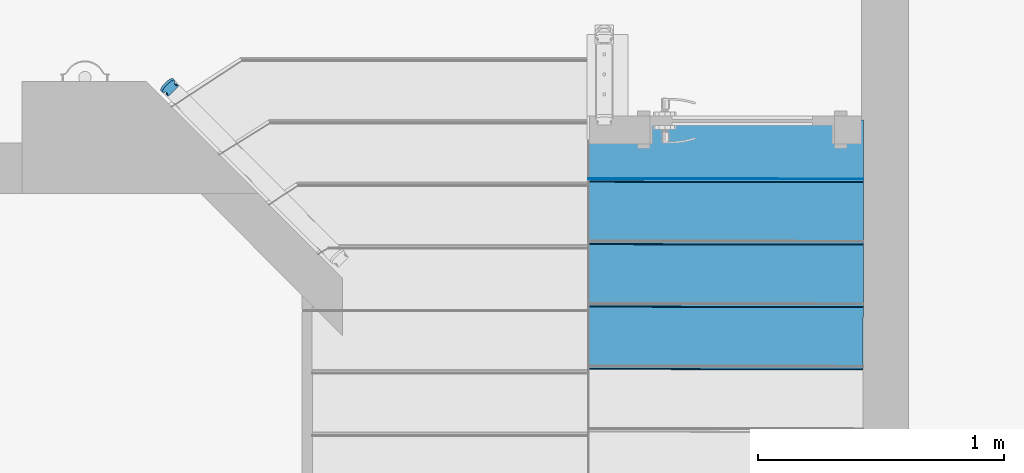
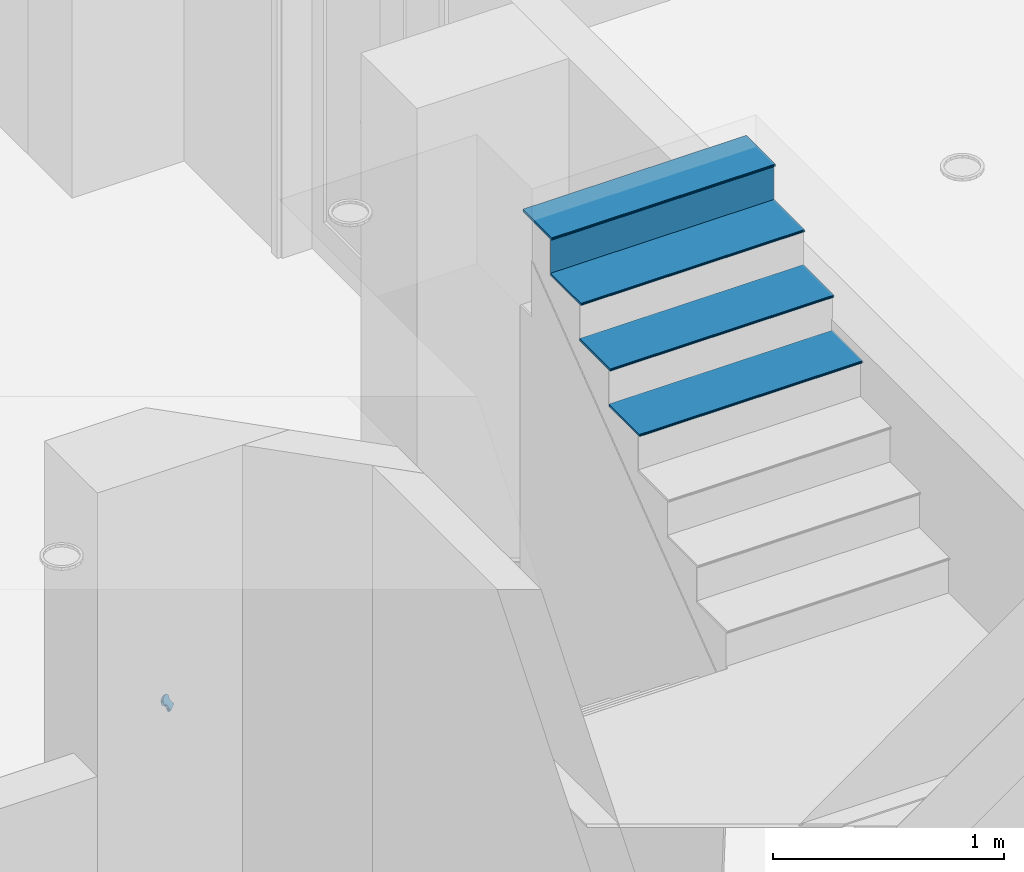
# One storey, part 6 of 24: 6 building element parts, 2 elements without a shape of their own.
"""IFC2X3 building model written with IfcOpenShell, lengths in inches."""

from ifc_helpers import new_model, entity, si_unit, converted_unit, derived_unit, money_unit, direction, frame, origin_with_axes, place, context, subcontext, project, spatial, faceted_brep, material, type_object, element, aggregate, save


model = new_model("IFC2X3")

# Units and contexts
model_context = context("Model", 3, precision=0.000393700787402, world=origin_with_axes(), true_north=direction((0.0, 1.0)))
body_context = subcontext(model_context, "Body", "Model", "MODEL_VIEW")
ifc_project = project(units=[converted_unit("LENGTHUNIT", "INCH", entity("IfcPositiveLengthMeasure", 0.0254), si_unit("LENGTHUNIT", "METRE"), dimensions=[1, 0, 0, 0, 0, 0, 0]), converted_unit("AREAUNIT", "SQUARE_FOOT", entity("IfcPositiveLengthMeasure", 0.09290304), si_unit("AREAUNIT", "SQUARE_METRE"), dimensions=[2, 0, 0, 0, 0, 0, 0]), si_unit("PLANEANGLEUNIT", "RADIAN"), si_unit("SOLIDANGLEUNIT", "STERADIAN"), money_unit("USD"), converted_unit("TIMEUNIT", "Year", entity("IfcTimeMeasure", 31556926.0), si_unit("TIMEUNIT", "SECOND"), dimensions=[0, 0, 1, 0, 0, 0, 0]), si_unit("MASSUNIT", "GRAM", prefix="KILO"), si_unit("THERMODYNAMICTEMPERATUREUNIT", "DEGREE_CELSIUS"), si_unit("LUMINOUSINTENSITYUNIT", "LUMEN"), si_unit("ENERGYUNIT", "JOULE", prefix="MEGA"), derived_unit("THERMALCONDUCTANCEUNIT", [(si_unit("POWERUNIT", "WATT"), 1), (si_unit("LENGTHUNIT", "METRE"), -1), (si_unit("THERMODYNAMICTEMPERATUREUNIT", "KELVIN"), -1)]), derived_unit("SPECIFICHEATCAPACITYUNIT", [(si_unit("ENERGYUNIT", "JOULE"), 1), (si_unit("MASSUNIT", "GRAM", prefix="KILO"), -1), (si_unit("THERMODYNAMICTEMPERATUREUNIT", "KELVIN"), -1)]), derived_unit("MASSDENSITYUNIT", [(si_unit("MASSUNIT", "GRAM", prefix="KILO"), 1), (si_unit("VOLUMEUNIT", "CUBIC_METRE"), -1)])], contexts=[model_context])

# Site, building, storey
site_placement = place(None, origin_with_axes())
site = spatial("IfcSite", under=ifc_project, at=site_placement, Name="Site", CompositionType="ELEMENT")
building_placement = place(site_placement, origin_with_axes())
building = spatial("IfcBuilding", under=site, at=building_placement, Name="Building", CompositionType="ELEMENT")
storey_placement = place(building_placement, origin_with_axes())
storey = spatial("IfcBuildingStorey", under=building, at=storey_placement, Name="First Floor", CompositionType="ELEMENT", Elevation=0.0)

# Railing, building element part
railing_type = type_object("IfcRailingType", Name="Railing Type", PredefinedType="NOTDEFINED")
railing_placement = place(storey_placement, frame((643.989643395, 118.830878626, 0.0), z_axis=(0.0, 0.0, 1.0), x_axis=(-1.0, 0.0, 0.0)))
railing = element("IfcRailing", 1, at=railing_placement, inside=storey, type_object=railing_type, Name="RAILING - 001", PredefinedType="NOTDEFINED")
ifc_material_1 = material(Name="Wood - Structural")
building_element_part_1_placement = place(railing_placement, origin_with_axes())
building_element_part_1 = element("IfcBuildingElementPart", 2, at=building_element_part_1_placement, material=ifc_material_1, Name="Wood - Structural", context=body_context, shape_type="Brep", body=[
    faceted_brep([(27.3349905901, -31.706144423, 39.9014723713), (27.2835203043, -31.6543157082, 39.8029447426), (27.5665501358, -31.939316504, 39.5051719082), (27.6180204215, -31.9911452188, 39.6036995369), (27.3825123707, -31.6709086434, 39.9129168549), (27.6739848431, -31.4395994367, 39.9685703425), (27.9540103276, -31.190695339, 39.9965033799), (28.220457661, -30.9260906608, 39.9965033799), (28.4712990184, -30.6477992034, 39.9685703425), (28.7046253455, -30.357938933, 39.9129168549), (28.7401900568, -30.3106628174, 39.9014723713), (28.688719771, -30.2588341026, 39.8029447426), (28.7118638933, -30.2345442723, 39.8016949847), (28.7535416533, -30.1827681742, 39.7917539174), (28.788036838, -30.1280540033, 39.7721738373), (28.8143013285, -30.072064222, 39.7435496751), (28.8315370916, -30.0165000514, 39.7067511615), (28.8392204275, -29.9630497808, 39.6628964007), (28.8371178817, -29.9133374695, 39.6133178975), (28.8252933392, -29.868873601, 39.5595220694), (28.8041060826, -29.8310091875, 39.5031434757), (28.774199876, -29.80089472, 39.4458951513), (28.7364834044, -29.7794452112, 39.3895165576), (28.6921026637, -29.7673123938, 39.3357207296), (28.6424061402, -29.7648649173, 39.2861422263), (28.5889038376, -29.7721771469, 39.2422874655), (28.5332213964, -29.7890269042, 39.2054889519), (28.4770506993, -29.814902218, 39.1768647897), (28.4220984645, -29.8490168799, 39.1572847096), (28.370034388, -29.8903343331, 39.1473436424), (28.3455845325, -29.9133093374, 39.1460938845), (28.2598007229, -29.8269281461, 38.9818811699), (28.2305849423, -29.8295487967, 38.9566201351), (28.1716192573, -29.8266448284, 38.8977944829), (28.1189608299, -29.812249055, 38.8339649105), (28.0742096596, -29.7867988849, 38.767070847), (28.0387254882, -29.7510676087, 38.6991448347), (28.0135864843, -29.7061409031, 38.6322507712), (27.9995564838, -29.6533838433, 38.5684211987), (27.9970617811, -29.5943994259, 38.5095955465), (27.9998851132, -29.565202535, 38.4843345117), (27.9141013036, -29.4788213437, 38.3201217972), (27.9256733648, -29.4666764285, 38.3194969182), (27.9465122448, -29.4407883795, 38.3145263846), (27.9637598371, -29.413431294, 38.3047363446), (27.9768920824, -29.3854364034, 38.2904242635), (27.9855099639, -29.3576543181, 38.2720250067), (27.9893516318, -29.3309291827, 38.2500976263), (27.988300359, -29.3060730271, 38.2253083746), (27.9823880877, -29.2838410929, 38.1984104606), (27.9717944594, -29.2649088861, 38.1702211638), (27.9568413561, -29.2498516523, 38.1415970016), (27.9379831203, -29.239126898, 38.1134077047), (27.91579275, -29.2330604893, 38.0865097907), (27.8909444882, -29.231836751, 38.0617205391), (27.8641933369, -29.2354928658, 38.0397931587), (27.8363521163, -29.2439177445, 38.0213939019), (27.8082667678, -29.2568554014, 38.0070818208), (27.7807906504, -29.2739127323, 37.9972917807), (27.7547586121, -29.2945714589, 37.9923212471), (27.7425336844, -29.3060589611, 37.9916963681), (26.3373342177, -30.7015405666, 37.9916963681), (26.3257621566, -30.7136854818, 37.9923212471), (26.3049232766, -30.7395735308, 37.9972917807), (26.2876756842, -30.7669306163, 38.0070818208), (26.274543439, -30.7949255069, 38.0213939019), (26.2659255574, -30.8227075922, 38.0397931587), (26.2620838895, -30.8494327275, 38.0617205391), (26.2631351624, -30.8742888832, 38.0865097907), (26.2690474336, -30.8965208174, 38.1134077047), (26.2796410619, -30.9154530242, 38.1415970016), (26.2945941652, -30.9305102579, 38.1702211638), (26.313452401, -30.9412350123, 38.1984104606), (26.3356427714, -30.947301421, 38.2253083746), (26.3604910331, -30.9485251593, 38.2500976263), (26.3872421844, -30.9448690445, 38.2720250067), (26.415083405, -30.9364441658, 38.2904242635), (26.4431687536, -30.9235065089, 38.3047363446), (26.4706448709, -30.906449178, 38.3145263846), (26.4966769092, -30.8857904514, 38.3194969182), (26.508901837, -30.8743029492, 38.3201217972), (26.5946856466, -30.9606841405, 38.4843345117), (26.6239014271, -30.9580634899, 38.5095955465), (26.6828671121, -30.9609674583, 38.5684211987), (26.7355255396, -30.9753632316, 38.6322507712), (26.7802767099, -31.0008134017, 38.6991448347), (26.8157608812, -31.0365446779, 38.767070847), (26.8408998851, -31.0814713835, 38.8339649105), (26.8549298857, -31.1342284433, 38.8977944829), (26.8574245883, -31.1932128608, 38.9566201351), (26.8546012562, -31.2224097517, 38.9818811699), (26.9403850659, -31.308790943, 39.1460938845), (26.9172409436, -31.3330807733, 39.1473436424), (26.8755631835, -31.3848568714, 39.1572847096), (26.8410679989, -31.4395710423, 39.1768647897), (26.8148035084, -31.4955608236, 39.2054889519), (26.7975677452, -31.5511249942, 39.2422874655), (26.7898844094, -31.6045752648, 39.2861422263), (26.7919869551, -31.6542875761, 39.3357207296), (26.8038114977, -31.6987514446, 39.3895165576), (26.8249987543, -31.7366158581, 39.4458951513), (26.8549049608, -31.7667303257, 39.5031434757), (26.8926214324, -31.7881798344, 39.5595220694), (26.9370021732, -31.8003126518, 39.6133178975), (26.9866986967, -31.8027601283, 39.6628964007), (27.0402009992, -31.7954478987, 39.7067511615), (27.0958834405, -31.7785981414, 39.7435496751), (27.1520541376, -31.7527228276, 39.7721738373), (27.2070063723, -31.7186081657, 39.7917539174), (27.2590704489, -31.6772907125, 39.8016949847), (27.5421002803, -31.9622915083, 39.5039221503), (27.4900362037, -32.0036089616, 39.4939810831), (27.435083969, -32.0377236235, 39.474401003), (27.3789132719, -32.0635989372, 39.4457768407), (27.3232308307, -32.0804486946, 39.4089783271), (27.2697285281, -32.0877609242, 39.3651235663), (27.2200320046, -32.0853134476, 39.3155450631), (27.1756512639, -32.0731806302, 39.2617492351), (27.1379347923, -32.0517311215, 39.2053706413), (27.1080285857, -32.0216166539, 39.1481223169), (27.0868413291, -31.9837522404, 39.0917437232), (27.0750167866, -31.9392883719, 39.0379478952), (27.0729142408, -31.8895760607, 38.9883693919), (27.0805975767, -31.83612579, 38.9445146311), (27.0978333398, -31.7805616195, 38.9077161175), (27.1240978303, -31.7245718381, 38.8790919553), (27.158593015, -31.6698576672, 38.8595118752), (27.200270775, -31.6180815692, 38.849570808), (27.2234148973, -31.5937917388, 38.8483210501), (27.1376310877, -31.5074105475, 38.6841083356), (27.1404544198, -31.4782136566, 38.6588473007), (27.1379597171, -31.4192292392, 38.6000216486), (27.1239297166, -31.3664721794, 38.5361920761), (27.0987907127, -31.3215454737, 38.4692980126), (27.0633065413, -31.2858141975, 38.4013720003), (27.018555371, -31.2603640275, 38.3344779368), (26.9658969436, -31.2459682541, 38.2706483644), (26.9069312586, -31.2430642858, 38.2118227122), (26.877715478, -31.2456849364, 38.1865616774), (26.7919316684, -31.1593037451, 38.0223489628), (26.7797067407, -31.1707912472, 38.0217240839), (26.7536747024, -31.1914499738, 38.0167535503), (26.726198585, -31.2085073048, 38.0069635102), (26.6981132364, -31.2214449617, 37.9926514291), (26.6702720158, -31.2298698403, 37.9742521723), (26.6435208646, -31.2335259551, 37.9523247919), (26.6186726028, -31.2323022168, 37.9275355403), (26.5964822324, -31.2262358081, 37.9006376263), (26.5776239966, -31.2155110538, 37.8724483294), (26.5626708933, -31.20045382, 37.8438241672), (26.552077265, -31.1815216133, 37.8156348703), (26.5461649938, -31.159289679, 37.7887369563), (26.5451137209, -31.1344335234, 37.7639477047), (26.5489553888, -31.1077083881, 37.7420203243), (26.5575732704, -31.0799263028, 37.7236210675), (26.5707055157, -31.0519314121, 37.7093089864), (26.587953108, -31.0245743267, 37.6995189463), (26.608791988, -30.9986862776, 37.6945484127), (26.6203640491, -30.9865413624, 37.6939235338), (28.0255635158, -29.5910597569, 37.6939235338), (28.0377884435, -29.5795722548, 37.6945484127), (28.0638204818, -29.5589135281, 37.6995189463), (28.0912965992, -29.5418561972, 37.7093089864), (28.1193819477, -29.5289185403, 37.7236210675), (28.1472231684, -29.5204936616, 37.7420203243), (28.1739743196, -29.5168375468, 37.7639477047), (28.1988225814, -29.5180612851, 37.7887369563), (28.2210129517, -29.5241276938, 37.8156348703), (28.2398711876, -29.5348524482, 37.8438241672), (28.2548242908, -29.549909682, 37.8724483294), (28.2654179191, -29.5688418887, 37.9006376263), (28.2713301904, -29.591073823, 37.9275355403), (28.2723814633, -29.6159299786, 37.9523247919), (28.2685397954, -29.6426551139, 37.9742521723), (28.2599219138, -29.6704371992, 37.9926514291), (28.2467896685, -29.6984320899, 38.0069635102), (28.2295420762, -29.7257891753, 38.0167535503), (28.2087031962, -29.7516772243, 38.0217240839), (28.197131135, -29.7638221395, 38.0223489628), (28.2829149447, -29.8502033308, 38.1865616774), (28.2800916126, -29.8794002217, 38.2118227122), (28.2825863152, -29.9383846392, 38.2706483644), (28.2966163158, -29.991141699, 38.3344779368), (28.3217553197, -30.0360684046, 38.4013720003), (28.357239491, -30.0717996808, 38.4692980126), (28.4019906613, -30.0972498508, 38.5361920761), (28.4546490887, -30.1116456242, 38.6000216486), (28.5136147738, -30.1145495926, 38.6588473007), (28.5428305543, -30.111928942, 38.6841083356), (28.6286143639, -30.1983101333, 38.8483210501), (28.6530642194, -30.175335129, 38.849570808), (28.705128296, -30.1340176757, 38.8595118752), (28.7600805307, -30.0999030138, 38.8790919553), (28.8162512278, -30.0740277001, 38.9077161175), (28.871933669, -30.0571779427, 38.9445146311), (28.9254359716, -30.0498657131, 38.9883693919), (28.9751324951, -30.0523131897, 39.0379478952), (29.0195132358, -30.0644460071, 39.0917437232), (29.0572297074, -30.0858955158, 39.1481223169), (29.087135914, -30.1160099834, 39.2053706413), (29.1083231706, -30.1538743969, 39.2617492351), (29.1201477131, -30.1983382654, 39.3155450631), (29.1222502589, -30.2480505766, 39.3651235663), (29.1145669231, -30.3015008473, 39.4089783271), (29.0973311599, -30.3570650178, 39.4457768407), (29.0710666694, -30.4130547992, 39.474401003), (29.0365714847, -30.4677689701, 39.4939810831), (28.9948937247, -30.5195450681, 39.5039221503), (28.9717496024, -30.5438348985, 39.5051719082), (29.0232198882, -30.5956636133, 39.6036995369), (28.9876551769, -30.6429397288, 39.6151440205), (28.7543288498, -30.9327999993, 39.6707975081), (28.5034874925, -31.2110914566, 39.6987305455), (28.237040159, -31.4756961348, 39.6987305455), (27.9570146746, -31.7246002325, 39.6707975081), (27.6655422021, -31.9559094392, 39.6151440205)], [[[0, 1, 2, 3]], [[0, 4, 5, 6, 7, 8, 9, 10, 11, 12, 13, 14, 15, 16, 17, 18, 19, 20, 21, 22, 23, 24, 25, 26, 27, 28, 29, 30, 31, 32, 33, 34, 35, 36, 37, 38, 39, 40, 41, 42, 43, 44, 45, 46, 47, 48, 49, 50, 51, 52, 53, 54, 55, 56, 57, 58, 59, 60, 61, 62, 63, 64, 65, 66, 67, 68, 69, 70, 71, 72, 73, 74, 75, 76, 77, 78, 79, 80, 81, 82, 83, 84, 85, 86, 87, 88, 89, 90, 91, 92, 93, 94, 95, 96, 97, 98, 99, 100, 101, 102, 103, 104, 105, 106, 107, 108, 109, 1]], [[1, 109, 110, 2]], [[3, 2, 110, 111, 112, 113, 114, 115, 116, 117, 118, 119, 120, 121, 122, 123, 124, 125, 126, 127, 128, 129, 130, 131, 132, 133, 134, 135, 136, 137, 138, 139, 140, 141, 142, 143, 144, 145, 146, 147, 148, 149, 150, 151, 152, 153, 154, 155, 156, 157, 158, 159, 160, 161, 162, 163, 164, 165, 166, 167, 168, 169, 170, 171, 172, 173, 174, 175, 176, 177, 178, 179, 180, 181, 182, 183, 184, 185, 186, 187, 188, 189, 190, 191, 192, 193, 194, 195, 196, 197, 198, 199, 200, 201, 202, 203, 204, 205, 206, 207, 208, 209, 210, 211, 212, 213, 214, 215]], [[4, 0, 3, 215]], [[5, 4, 215, 214]], [[6, 5, 214, 213]], [[7, 6, 213, 212]], [[8, 7, 212, 211]], [[9, 8, 211, 210]], [[10, 9, 210, 209]], [[11, 10, 209, 208]], [[12, 11, 208, 207]], [[13, 12, 207, 206]], [[14, 13, 206, 205]], [[15, 14, 205, 204]], [[16, 15, 204, 203]], [[17, 16, 203, 202]], [[18, 17, 202, 201]], [[19, 18, 201, 200]], [[20, 19, 200, 199]], [[21, 20, 199, 198]], [[22, 21, 198, 197]], [[23, 22, 197, 196]], [[24, 23, 196, 195]], [[25, 24, 195, 194]], [[26, 25, 194, 193]], [[27, 26, 193, 192]], [[28, 27, 192, 191]], [[29, 28, 191, 190]], [[30, 29, 190, 189]], [[31, 30, 189, 188]], [[32, 31, 188, 187]], [[33, 32, 187, 186]], [[34, 33, 186, 185]], [[35, 34, 185, 184]], [[36, 35, 184, 183]], [[37, 36, 183, 182]], [[38, 37, 182, 181]], [[39, 38, 181, 180]], [[40, 39, 180, 179]], [[41, 40, 179, 178]], [[42, 41, 178, 177]], [[43, 42, 177, 176]], [[44, 43, 176, 175]], [[45, 44, 175, 174]], [[46, 45, 174, 173]], [[47, 46, 173, 172]], [[48, 47, 172, 171]], [[49, 48, 171, 170]], [[50, 49, 170, 169]], [[51, 50, 169, 168]], [[52, 51, 168, 167]], [[53, 52, 167, 166]], [[54, 53, 166, 165]], [[55, 54, 165, 164]], [[56, 55, 164, 163]], [[57, 56, 163, 162]], [[58, 57, 162, 161]], [[59, 58, 161, 160]], [[60, 59, 160, 159]], [[61, 60, 159, 158]], [[62, 61, 158, 157]], [[63, 62, 157, 156]], [[64, 63, 156, 155]], [[65, 64, 155, 154]], [[66, 65, 154, 153]], [[67, 66, 153, 152]], [[68, 67, 152, 151]], [[69, 68, 151, 150]], [[70, 69, 150, 149]], [[71, 70, 149, 148]], [[72, 71, 148, 147]], [[73, 72, 147, 146]], [[74, 73, 146, 145]], [[75, 74, 145, 144]], [[76, 75, 144, 143]], [[77, 76, 143, 142]], [[78, 77, 142, 141]], [[79, 78, 141, 140]], [[80, 79, 140, 139]], [[81, 80, 139, 138]], [[82, 81, 138, 137]], [[83, 82, 137, 136]], [[84, 83, 136, 135]], [[85, 84, 135, 134]], [[86, 85, 134, 133]], [[87, 86, 133, 132]], [[88, 87, 132, 131]], [[89, 88, 131, 130]], [[90, 89, 130, 129]], [[91, 90, 129, 128]], [[92, 91, 128, 127]], [[93, 92, 127, 126]], [[94, 93, 126, 125]], [[95, 94, 125, 124]], [[96, 95, 124, 123]], [[97, 96, 123, 122]], [[98, 97, 122, 121]], [[99, 98, 121, 120]], [[100, 99, 120, 119]], [[101, 100, 119, 118]], [[102, 101, 118, 117]], [[103, 102, 117, 116]], [[104, 103, 116, 115]], [[105, 104, 115, 114]], [[106, 105, 114, 113]], [[107, 106, 113, 112]], [[108, 107, 112, 111]], [[109, 108, 111, 110]]]),
])
aggregate(railing, [building_element_part_1])

# Stair, building element parts
stair_placement = place(storey_placement, frame((683.15053629, 154.289481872, 0.0), z_axis=(0.0, 0.0, 1.0), x_axis=(1.0, 0.0, 0.0)))
stair = element("IfcStair", 3, at=stair_placement, inside=storey, Name="STAIR-30", ShapeType="NOTDEFINED")
ifc_material_2 = material(Name="Timber - Floor")
building_element_part_2_placement = place(stair_placement, origin_with_axes())
building_element_part_2 = element("IfcBuildingElementPart", 4, at=building_element_part_2_placement, material=ifc_material_2, Name="Timber - Floor", context=body_context, shape_type="Brep", body=[
    faceted_brep([(44.1975323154, -19.5417608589, 120.75984252), (44.1976457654, -19.4167609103, 120.75984252), (0.197305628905, -19.375137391, 120.75984252), (0.197187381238, -19.500137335, 120.75984252), (44.1975323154, -19.5417608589, 113.681102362), (44.1976457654, -19.4167609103, 113.681102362), (0.197305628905, -19.375137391, 113.681102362), (0.197187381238, -19.500137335, 113.681102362)], [[[0, 1, 2, 3]], [[0, 4, 5, 1]], [[1, 5, 6, 2]], [[3, 2, 6, 7]], [[4, 0, 3, 7]], [[5, 4, 7, 6]]]),
])
building_element_part_3_placement = place(stair_placement, origin_with_axes())
building_element_part_3 = element("IfcBuildingElementPart", 5, at=building_element_part_3_placement, material=ifc_material_2, Name="Timber - Floor", context=body_context, shape_type="Brep", body=[
    faceted_brep([(0.168334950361, -50.0001236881, 98.2736220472), (0.168338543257, -49.996325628, 98.2302100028), (44.1698541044, -50.0379502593, 98.2302100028), (44.1698505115, -50.0417483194, 98.2736220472), (0.168366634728, -49.966630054, 98.1486220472), (0.168349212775, -49.98504685, 98.1881170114), (0.168338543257, -49.996325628, 98.3170340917), (0.168349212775, -49.98504685, 98.3591270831), (0.168366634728, -49.966630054, 98.3986220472), (0.168390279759, -49.941634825, 98.4343189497), (0.168419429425, -49.9108206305, 98.465133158), (0.168453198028, -49.875123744, 98.4901283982), (0.168490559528, -49.8356287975, 98.5085452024), (0.168530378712, -49.7935358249, 98.5198239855), (0.168571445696, -49.7501238, 98.5236220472), (0.178386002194, -39.3751283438, 98.5236220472), (0.178386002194, -39.3751283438, 98.0236220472), (0.168571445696, -49.7501238, 98.0236220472), (0.168530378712, -49.7935358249, 98.027420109), (0.168490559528, -49.8356287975, 98.038698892), (0.168453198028, -49.875123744, 98.0571156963), (0.168419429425, -49.9108206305, 98.0821109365), (0.168390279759, -49.941634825, 98.1129251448), (44.1698647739, -50.0266714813, 98.1881170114), (44.179493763, -39.4167524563, 98.0236220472), (44.179493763, -39.4167524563, 98.5236220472), (44.1700870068, -49.7917484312, 98.5236220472), (44.1700459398, -49.8351604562, 98.5198239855), (44.1700061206, -49.8772534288, 98.5085452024), (44.1699687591, -49.9167483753, 98.4901283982), (44.1699349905, -49.9524452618, 98.465133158), (44.1699058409, -49.9832594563, 98.4343189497), (44.1698821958, -50.0082546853, 98.3986220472), (44.1698647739, -50.0266714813, 98.3591270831), (44.1698541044, -50.0379502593, 98.3170340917), (44.1698821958, -50.0082546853, 98.1486220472), (44.1699058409, -49.9832594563, 98.1129251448), (44.1699349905, -49.9524452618, 98.0821109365), (44.1699687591, -49.9167483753, 98.0571156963), (44.1700061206, -49.8772534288, 98.038698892), (44.1700459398, -49.8351604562, 98.027420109), (44.1700870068, -49.7917484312, 98.0236220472)], [[[0, 1, 2, 3]], [[4, 5, 1, 0, 6, 7, 8, 9, 10, 11, 12, 13, 14, 15, 16, 17, 18, 19, 20, 21, 22]], [[1, 5, 23, 2]], [[24, 25, 26, 27, 28, 29, 30, 31, 32, 33, 34, 3, 2, 23, 35, 36, 37, 38, 39, 40, 41]], [[6, 0, 3, 34]], [[5, 4, 35, 23]], [[7, 6, 34, 33]], [[8, 7, 33, 32]], [[9, 8, 32, 31]], [[10, 9, 31, 30]], [[11, 10, 30, 29]], [[12, 11, 29, 28]], [[12, 28, 27, 13]], [[14, 13, 27, 26]], [[15, 14, 26, 25]], [[16, 15, 25, 24]], [[17, 16, 24, 41]], [[18, 17, 41, 40]], [[19, 18, 40, 39]], [[20, 19, 39, 38]], [[21, 20, 38, 37]], [[22, 21, 37, 36]], [[4, 22, 36, 35]]]),
])
building_element_part_4_placement = place(stair_placement, origin_with_axes())
building_element_part_4 = element("IfcBuildingElementPart", 6, at=building_element_part_4_placement, material=ifc_material_2, Name="Timber - Floor", context=body_context, shape_type="Brep", body=[
    faceted_brep([(0.177850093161, -39.9416392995, 105.691665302), (0.177879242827, -39.9108251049, 105.660851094), (44.1790109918, -39.9524493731, 105.660851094), (44.1789818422, -39.9832635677, 105.691665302), (0.177809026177, -39.9850513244, 105.766857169), (0.177798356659, -39.9963301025, 105.80895016), (0.177794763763, -40.0001281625, 105.852362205), (0.177798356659, -39.9963301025, 105.895774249), (0.177809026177, -39.9850513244, 105.937867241), (0.17782644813, -39.9666345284, 105.977362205), (0.177850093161, -39.9416392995, 106.013059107), (0.177879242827, -39.9108251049, 106.043873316), (0.177913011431, -39.8751282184, 106.068868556), (0.17795037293, -39.8356332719, 106.08728536), (0.177990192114, -39.7935402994, 106.098564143), (0.178031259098, -39.7501282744, 106.102362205), (0.187845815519, -29.3751329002, 106.102362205), (0.187845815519, -29.3751329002, 105.602362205), (0.178031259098, -39.7501282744, 105.602362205), (0.177990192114, -39.7935402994, 105.606160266), (0.17795037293, -39.8356332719, 105.61743905), (0.177913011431, -39.8751282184, 105.635855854), (0.17782644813, -39.9666345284, 105.727362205), (44.1790447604, -39.9167524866, 105.635855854), (44.1885697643, -29.4167566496, 105.602362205), (44.1885697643, -29.4167566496, 106.102362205), (44.1791630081, -39.7917525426, 106.102362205), (44.1791219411, -39.8351645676, 106.098564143), (44.1790821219, -39.8772575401, 106.08728536), (44.1790447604, -39.9167524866, 106.068868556), (44.1790109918, -39.9524493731, 106.043873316), (44.1789818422, -39.9832635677, 106.013059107), (44.1789581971, -40.0082587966, 105.977362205), (44.1789407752, -40.0266755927, 105.937867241), (44.1789301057, -40.0379543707, 105.895774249), (44.1789265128, -40.0417524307, 105.852362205), (44.1789301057, -40.0379543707, 105.80895016), (44.1789407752, -40.0266755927, 105.766857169), (44.1789581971, -40.0082587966, 105.727362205), (44.1790821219, -39.8772575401, 105.61743905), (44.1791219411, -39.8351645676, 105.606160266), (44.1791630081, -39.7917525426, 105.602362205)], [[[0, 1, 2, 3]], [[4, 5, 6, 7, 8, 9, 10, 11, 12, 13, 14, 15, 16, 17, 18, 19, 20, 21, 1, 0, 22]], [[1, 21, 23, 2]], [[24, 25, 26, 27, 28, 29, 30, 31, 32, 33, 34, 35, 36, 37, 38, 3, 2, 23, 39, 40, 41]], [[22, 0, 3, 38]], [[5, 4, 37, 36]], [[6, 5, 36, 35]], [[7, 6, 35, 34]], [[8, 7, 34, 33]], [[9, 8, 33, 32]], [[10, 9, 32, 31]], [[11, 10, 31, 30]], [[12, 11, 30, 29]], [[13, 12, 29, 28]], [[27, 14, 13, 28]], [[15, 14, 27, 26]], [[16, 15, 26, 25]], [[17, 16, 25, 24]], [[18, 17, 24, 41]], [[19, 18, 41, 40]], [[20, 19, 40, 39]], [[21, 20, 39, 23]], [[4, 22, 38, 37]]]),
])
building_element_part_5_placement = place(stair_placement, origin_with_axes())
building_element_part_5 = element("IfcBuildingElementPart", 7, at=building_element_part_5_placement, material=ifc_material_2, Name="Timber - Floor", context=body_context, shape_type="Brep", body=[
    faceted_brep([(0.187268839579, -29.9850557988, 113.345597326), (0.187286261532, -29.9666390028, 113.306102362), (44.1880341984, -30.008262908, 113.306102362), (44.1880167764, -30.026679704, 113.345597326), (0.187258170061, -29.9963345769, 113.387690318), (0.187254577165, -30.0001326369, 113.431102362), (0.187258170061, -29.9963345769, 113.474514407), (0.187268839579, -29.9850557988, 113.516607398), (0.187286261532, -29.9666390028, 113.556102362), (0.187309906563, -29.9416437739, 113.591799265), (0.187339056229, -29.9108295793, 113.622613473), (0.187372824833, -29.8751326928, 113.647608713), (0.187410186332, -29.8356377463, 113.666025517), (0.187450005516, -29.7935447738, 113.6773043), (0.1874910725, -29.7501327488, 113.681102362), (0.197305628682, -19.3751376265, 113.681102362), (0.197305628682, -19.3751376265, 113.181102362), (0.1874910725, -29.7501327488, 113.181102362), (0.187450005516, -29.7935447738, 113.184900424), (0.187410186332, -29.8356377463, 113.196179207), (0.187372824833, -29.8751326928, 113.214596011), (0.187339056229, -29.9108295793, 113.239591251), (0.187309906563, -29.9416437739, 113.27040546), (44.1880578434, -29.983267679, 113.27040546), (44.1976457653, -19.4167610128, 113.181102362), (44.1976457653, -19.4167610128, 113.681102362), (44.1882390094, -29.7917566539, 113.681102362), (44.1881979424, -29.8351686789, 113.6773043), (44.1881581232, -29.8772616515, 113.666025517), (44.1881207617, -29.916756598, 113.647608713), (44.1880869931, -29.9524534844, 113.622613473), (44.1880578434, -29.983267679, 113.591799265), (44.1880341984, -30.008262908, 113.556102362), (44.1880167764, -30.026679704, 113.516607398), (44.1880061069, -30.037958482, 113.474514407), (44.188002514, -30.041756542, 113.431102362), (44.1880061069, -30.037958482, 113.387690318), (44.1880869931, -29.9524534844, 113.239591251), (44.1881207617, -29.916756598, 113.214596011), (44.1881581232, -29.8772616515, 113.196179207), (44.1881979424, -29.8351686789, 113.184900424), (44.1882390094, -29.7917566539, 113.181102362)], [[[0, 1, 2, 3]], [[0, 4, 5, 6, 7, 8, 9, 10, 11, 12, 13, 14, 15, 16, 17, 18, 19, 20, 21, 22, 1]], [[1, 22, 23, 2]], [[24, 25, 26, 27, 28, 29, 30, 31, 32, 33, 34, 35, 36, 3, 2, 23, 37, 38, 39, 40, 41]], [[4, 0, 3, 36]], [[5, 4, 36, 35]], [[6, 5, 35, 34]], [[7, 6, 34, 33]], [[8, 7, 33, 32]], [[9, 8, 32, 31]], [[10, 9, 31, 30]], [[11, 10, 30, 29]], [[12, 11, 29, 28]], [[12, 28, 27, 13]], [[14, 13, 27, 26]], [[15, 14, 26, 25]], [[16, 15, 25, 24]], [[17, 16, 24, 41]], [[18, 17, 41, 40]], [[19, 18, 40, 39]], [[20, 19, 39, 38]], [[21, 20, 38, 37]], [[22, 21, 37, 23]]]),
])
building_element_part_6_placement = place(stair_placement, origin_with_axes())
building_element_part_6 = element("IfcBuildingElementPart", 8, at=building_element_part_6_placement, material=ifc_material_2, Name="Timber - Floor", context=body_context, shape_type="Brep", body=[
    faceted_brep([(0.196717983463, -19.9963390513, 120.966430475), (0.196728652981, -19.9850602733, 120.924337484), (44.1970927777, -20.0266838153, 120.924337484), (44.1970821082, -20.0379625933, 120.966430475), (0.196769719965, -19.9416482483, 120.849145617), (0.196746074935, -19.9666434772, 120.88484252), (0.196714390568, -20.0001371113, 121.00984252), (0.196717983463, -19.9963390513, 121.053254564), (0.196728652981, -19.9850602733, 121.095347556), (0.196746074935, -19.9666434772, 121.13484252), (0.196769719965, -19.9416482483, 121.170539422), (0.196798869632, -19.9108340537, 121.20135363), (0.196832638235, -19.8751371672, 121.226348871), (0.196869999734, -19.8356422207, 121.244765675), (0.196909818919, -19.7935492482, 121.256044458), (0.196950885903, -19.7501372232, 121.25984252), (0.20617420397, -10.0001415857, 121.25984252), (0.20617420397, -10.0001415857, 120.75984252), (0.196950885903, -19.7501372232, 120.75984252), (0.196909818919, -19.7935492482, 120.763640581), (0.196869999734, -19.8356422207, 120.774919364), (0.196832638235, -19.8751371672, 120.793336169), (0.196798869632, -19.9108340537, 120.818331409), (44.1971101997, -20.0082670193, 120.88484252), (44.2061545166, -10.0417647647, 120.75984252), (44.2061545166, -10.0417647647, 121.25984252), (44.1973150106, -19.7917607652, 121.25984252), (44.1972739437, -19.8351727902, 121.256044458), (44.1972341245, -19.8772657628, 121.244765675), (44.197196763, -19.9167607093, 121.226348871), (44.1971629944, -19.9524575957, 121.20135363), (44.1971338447, -19.9832717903, 121.170539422), (44.1971101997, -20.0082670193, 121.13484252), (44.1970927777, -20.0266838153, 121.095347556), (44.1970821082, -20.0379625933, 121.053254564), (44.1970785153, -20.0417606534, 121.00984252), (44.1971338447, -19.9832717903, 120.849145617), (44.1971629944, -19.9524575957, 120.818331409), (44.197196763, -19.9167607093, 120.793336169), (44.1972341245, -19.8772657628, 120.774919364), (44.1972739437, -19.8351727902, 120.763640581), (44.1973150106, -19.7917607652, 120.75984252)], [[[0, 1, 2, 3]], [[4, 5, 1, 0, 6, 7, 8, 9, 10, 11, 12, 13, 14, 15, 16, 17, 18, 19, 20, 21, 22]], [[1, 5, 23, 2]], [[24, 25, 26, 27, 28, 29, 30, 31, 32, 33, 34, 35, 3, 2, 23, 36, 37, 38, 39, 40, 41]], [[6, 0, 3, 35]], [[5, 4, 36, 23]], [[7, 6, 35, 34]], [[8, 7, 34, 33]], [[9, 8, 33, 32]], [[10, 9, 32, 31]], [[11, 10, 31, 30]], [[12, 11, 30, 29]], [[13, 12, 29, 28]], [[13, 28, 27, 14]], [[15, 14, 27, 26]], [[16, 15, 26, 25]], [[17, 16, 25, 24]], [[18, 17, 24, 41]], [[19, 18, 41, 40]], [[20, 19, 40, 39]], [[21, 20, 39, 38]], [[22, 21, 38, 37]], [[4, 22, 37, 36]]]),
])
aggregate(stair, [building_element_part_2, building_element_part_3, building_element_part_4, building_element_part_5, building_element_part_6])

save(model, "model.ifc")
